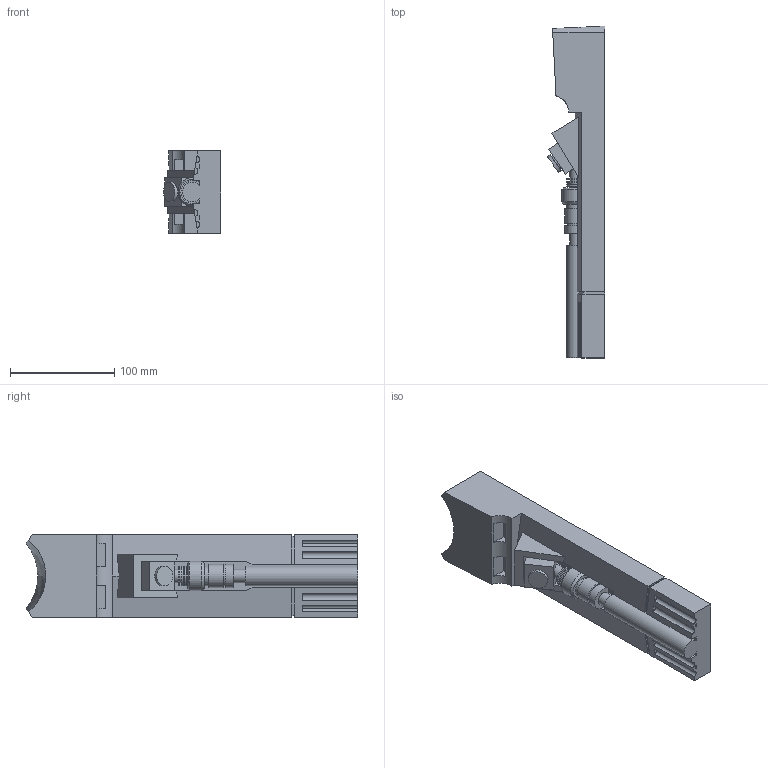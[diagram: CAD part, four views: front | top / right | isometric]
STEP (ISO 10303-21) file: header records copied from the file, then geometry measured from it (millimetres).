
FILE_DESCRIPTION(/* description */ (''),/* implementation_level */ '2;1');
FILE_NAME(/* name */ 'C:/Users/ianhu/Documents/Robots/Boosters/Ians Booster Cover Hollow.step',/* time_stamp */ '2019-01-21T20:22:25+11:00',/* author */ ('ianhughes7UFVF'),/* organization */ (''),/* preprocessor_version */ 'ST-DEVELOPER v17.2',/* originating_system */ 'Autodesk Translation Framework v7.6.0.251',/* authorisation */ '');
FILE_SCHEMA (('AUTOMOTIVE_DESIGN { 1 0 10303 214 3 1 1 }'));
Length unit declared in the file: millimetre
Products named in the file (2): Booster Cover Jag Spec Solid V2 Hollowed Out; BoosterCover
Assembly tree (1 placements, depth 2):
  Booster Cover Jag Spec Solid V2 Hollowed Out
    BoosterCover
Bounding box: 54.92 x 318.37 x 79.38 mm (x, y, z)
Volume: 488605.2 mm3; surface area: 108910.8 mm2
Topology: 1 solids, 11 shells, 184 faces, 463 edges, 312 vertices
Faces by surface type: plane 126, cylinder 55, cone 2, bspline 1
Full cylindrical faces by diameter (mm): 1.9 x3, 3 x4, 7.6 x1, 9.6 x1, 11 x2, 15.875 x1, 19.05 x1
Entity records: 5571 total; most frequent: CARTESIAN_POINT 979, DIRECTION 961, ORIENTED_EDGE 926, EDGE_CURVE 463, LINE 329, VECTOR 329, AXIS2_PLACEMENT_3D 316, VERTEX_POINT 312
